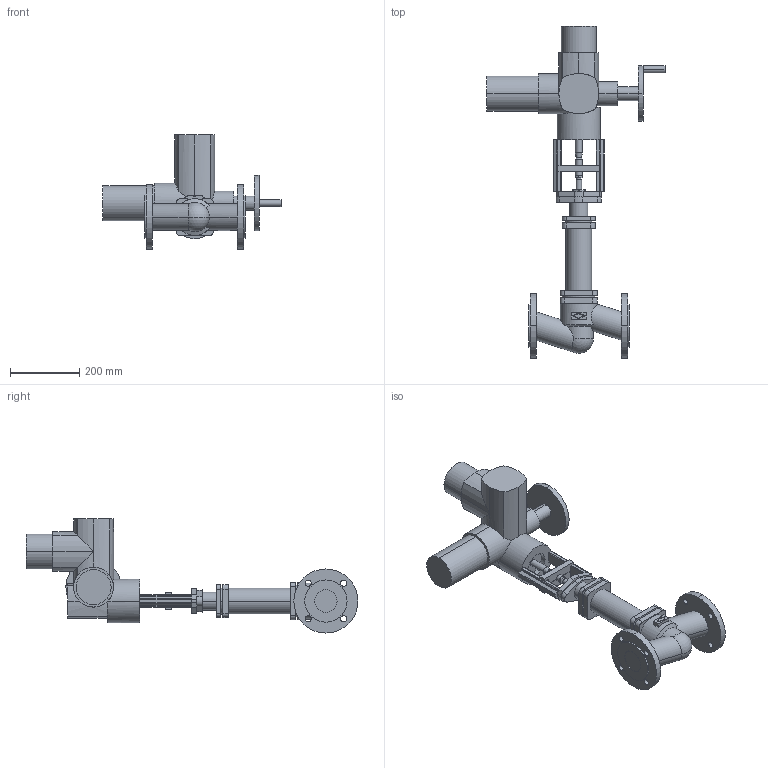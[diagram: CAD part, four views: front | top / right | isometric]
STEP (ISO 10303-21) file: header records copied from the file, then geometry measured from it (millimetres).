
FILE_DESCRIPTION(('OneSpaceDesigner STEP Export'),'2;1');
FILE_NAME('c000003133.stp','2007-01-19T11:26:09',(''),(''),'OneSpace Designer STEP processor for AP214 (Solid Model)','OneSpace Designer 14.00B 27-May-2006 (C) CoCreate Software GmbH','');
FILE_SCHEMA(('AUTOMOTIVE_DESIGN { 1 0 10303 214 1 1 1 1 }'));
Length unit declared in the file: millimetre
Products named in the file (2): 1; 2
Bounding box: 514 x 958 x 329.5 mm (x, y, z)
Volume: 12940523.3 mm3; surface area: 779058.9 mm2
Topology: 2 solids, 2 shells, 312 faces, 798 edges, 509 vertices
Faces by surface type: plane 154, cylinder 150, cone 6, sphere 2
Entity records: 10114 total; most frequent: CARTESIAN_POINT 2097, ORIENTED_EDGE 1592, DIRECTION 1385, SURFACE_CURVE 796, EDGE_CURVE 796, VERTEX_POINT 509, AXIS2_PLACEMENT_3D 470, VECTOR 445
